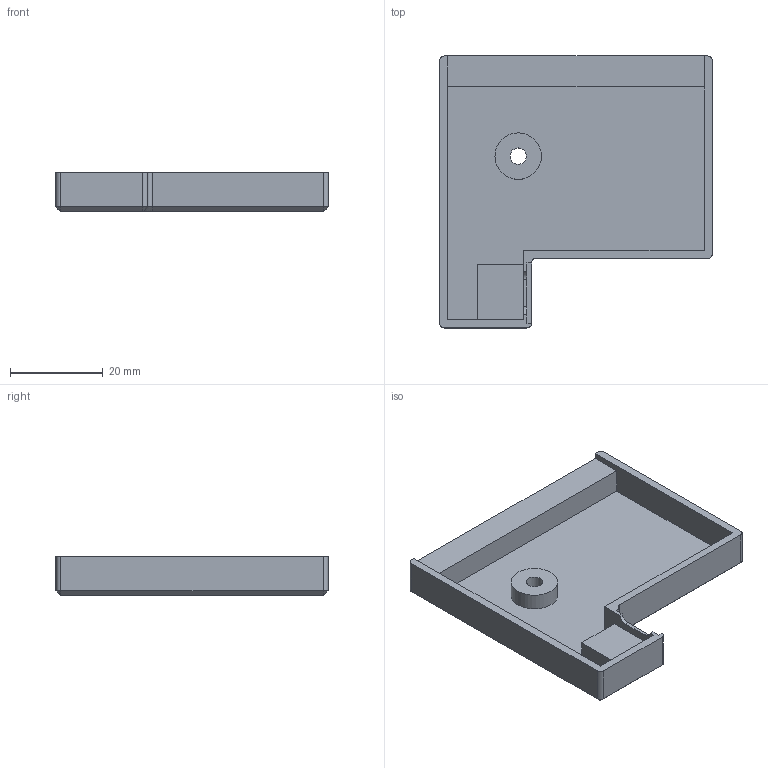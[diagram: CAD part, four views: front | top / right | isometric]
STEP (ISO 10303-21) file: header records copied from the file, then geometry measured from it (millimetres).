
FILE_DESCRIPTION(('FreeCAD Model'),'2;1');
FILE_NAME('Open CASCADE Shape Model','2023-11-15T18:34:14',(''),(''), 'Open CASCADE STEP processor 7.6','FreeCAD','Unknown');
FILE_SCHEMA(('AUTOMOTIVE_DESIGN { 1 0 10303 214 1 1 1 1 }'));
Length unit declared in the file: millimetre
Products named in the file (1): LowerPart
Bounding box: 58.7 x 58.55 x 8.35 mm (x, y, z)
Volume: 9390.6 mm3; surface area: 8904.3 mm2
Topology: 1 solids, 1 shells, 49 faces, 125 edges, 74 vertices
Faces by surface type: plane 32, cylinder 10, cone 7
Full cylindrical faces by diameter (mm): 3.5 x1, 10 x1
Entity records: 3023 total; most frequent: CARTESIAN_POINT 532, DIRECTION 475, LINE 321, VECTOR 321, ORIENTED_EDGE 240, PCURVE 240, DEFINITIONAL_REPRESENTATION 240, EDGE_CURVE 120
